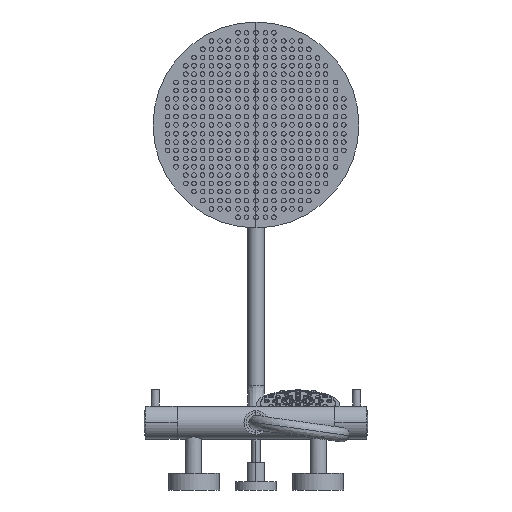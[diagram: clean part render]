
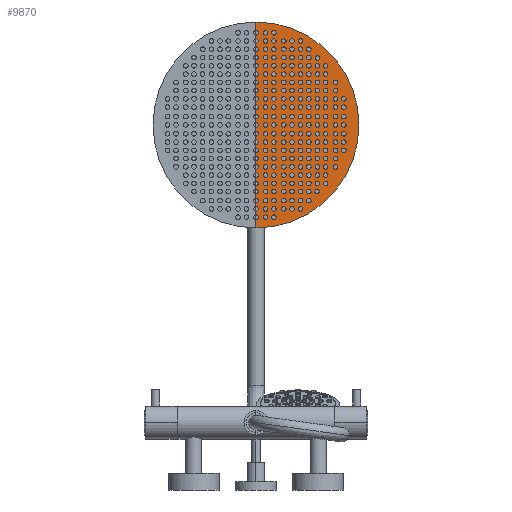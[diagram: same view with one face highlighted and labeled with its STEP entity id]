
A CAD part, front view. The second image highlights one B-rep face of the part: STEP entity #9870.
In plain terms, the highlighted planar face has unit normal (0, -1, 0).
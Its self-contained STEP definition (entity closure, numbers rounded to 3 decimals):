
#9810 = VERTEX_POINT('',#9811);
#9811 = CARTESIAN_POINT('',(0.,1093.999,
    316.955));
#9812 = VERTEX_POINT('',#9813);
#9813 = CARTESIAN_POINT('',(0.,1093.999,
    566.05));
#9841 = EDGE_CURVE('',#9812,#9810,#9842,.T.);
#9842 = CIRCLE('',#9843,124.548);
#9843 = AXIS2_PLACEMENT_3D('',#9844,#9845,#9846);
#9844 = CARTESIAN_POINT('',(0.,1093.999,
    441.502));
#9845 = DIRECTION('',(0.,1.,0.));
#9846 = DIRECTION('',(0.,-0.,1.));
#9859 = EDGE_CURVE('',#9810,#9812,#9860,.T.);
#9860 = LINE('',#9861,#9862);
#9861 = CARTESIAN_POINT('',(0.,1093.999,
    441.502));
#9862 = VECTOR('',#9863,1.);
#9863 = DIRECTION('',(0.,0.,1.));
#9870 = ADVANCED_FACE('',(#9871),#9875,.T.);
#9871 = FACE_BOUND('',#9872,.T.);
#9872 = EDGE_LOOP('',(#9873,#9874));
#9873 = ORIENTED_EDGE('',*,*,#9859,.F.);
#9874 = ORIENTED_EDGE('',*,*,#9841,.F.);
#9875 = PLANE('',#9876);
#9876 = AXIS2_PLACEMENT_3D('',#9877,#9878,#9879);
#9877 = CARTESIAN_POINT('',(0.,1093.999,
    441.502));
#9878 = DIRECTION('',(0.,-1.,0.));
#9879 = DIRECTION('',(0.,0.,1.));
